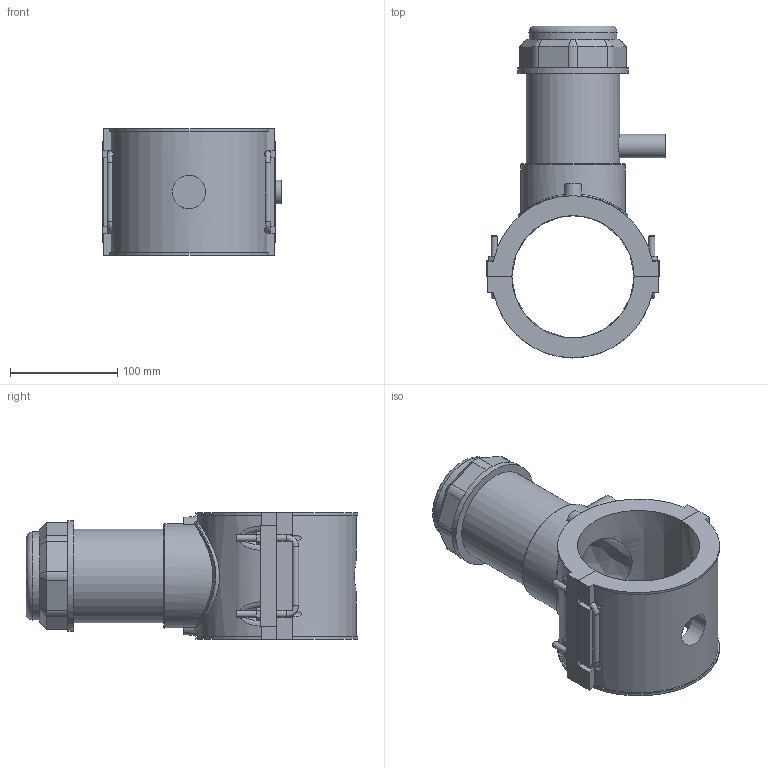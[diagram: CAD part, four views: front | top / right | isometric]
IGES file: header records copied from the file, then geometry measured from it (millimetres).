
Global section: file name: 5963BU03040007.ipt; native system: Autodesk Inventor 2019; preprocessor: unknown; author: KIM; date: 20210830.101458; units: millimetre
Bounding box: 166.61 x 309.74 x 118.11 mm (x, y, z)
Volume: 1393776.2 mm3; surface area: 221327 mm2
Topology: 1 solids, 3 shells, 215 faces, 569 edges, 370 vertices
Faces by surface type: plane 126, cylinder 40, revolution 28, cone 15, bspline 6
Full cylindrical faces by diameter (mm): 6 x8, 22.1 x1, 82.152 x1, 87.287 x1, 97.555 x1, 102.69 x1
